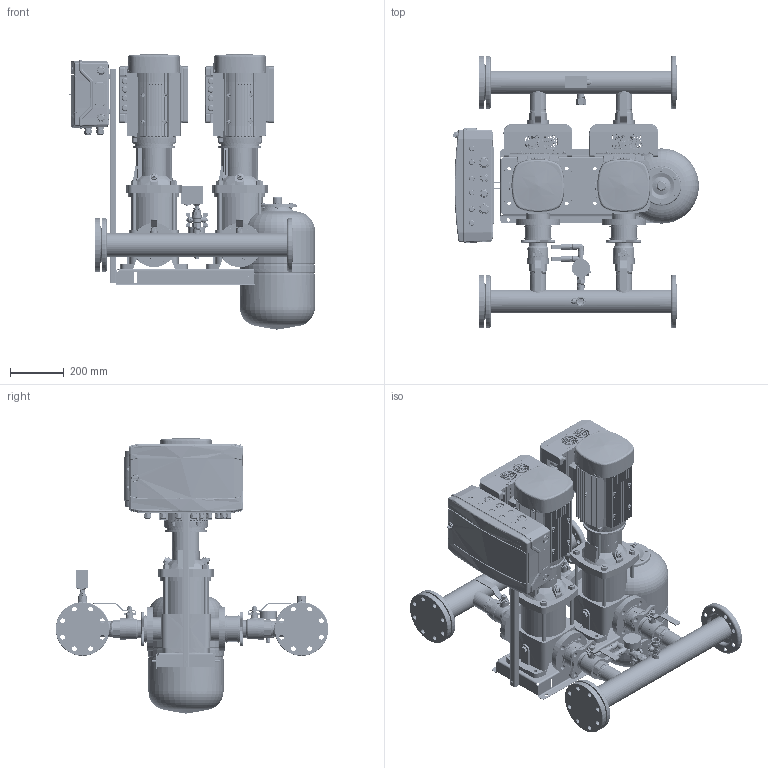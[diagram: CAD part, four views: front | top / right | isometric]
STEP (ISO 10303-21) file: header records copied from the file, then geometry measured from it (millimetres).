
FILE_DESCRIPTION(('CATIA V5 STEP Exchange','CAx-IF Rec.Pracs.--- Model Styling and Organization---1.4--- 2014-01-23','CAx-IF Rec.Pracs.---3D Tessellated Data Validation Properties---0.5---2014-09-14'),'2;1');
FILE_NAME('C:\Users\78432\YandexDisk\Drawings and 3D\3D Hydro Booster\Hydro-ME 3D\Hydro Models\Hydro ME 2 CRV15_20-xx (DIN BV)\Hydro ME 2 CRVE15-3 (DIN BV).stp','2023-09-20T12:17:24+00:00',('none'),('none'),'CATIA Version 5-6 Release 2019 SP6','CATIA V5 STEP AP242 v1','none');
FILE_SCHEMA(('AP242_MANAGED_MODEL_BASED_3D_ENGINEERING_MIM_LF {1 0 10303 442 1 1 4}'));
Products named in the file (44): Hydro ME 2 CRVE15-3 (DIN BV); 92051008; CRV15-3 set (DIN bv); CRV 15-3_A_DIN_3kW; Base; Sleeve; Pumphead; Staybolt.1; Staybolt.2; Staybolt.3; Staybolt.4; Plug; AirVent; Motor; 00id2584; 92802785; 99273085; SAJ PDH30 4-7,5kW; 97941445; 405801; 91040270; 91070073; 99110037; 97941482; 00GW4890; Holder and CP 18mod; 92878909; Control ME (18mod); 2 sensors + manometer cpl.; manometr 16 bar; RPD-I-G1_2; 9021-01; 2070 1/2-1/2; _2020 1/2-1/2; 98594078; Tank 24L cpl.; DN20_FF_BF_47.300.20; WAV-24(D140 1''); 9021-03; Relay cpl.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
Assembly tree (54 placements, depth 4):
  Hydro ME 2 CRVE15-3 (DIN BV)
    92051008
    CRV15-3 set (DIN bv)  x2
      CRV 15-3_A_DIN_3kW
        Base
        Sleeve
        Pumphead
        Staybolt.1
        Staybolt.2
        Staybolt.3
        Staybolt.4
        Plug
        AirVent
        Motor
      00id2584
      92802785
      99273085
      SAJ PDH30 4-7,5kW
    97941445  x2
      405801
      91040270
      91070073
      99110037
      97941482
    00GW4890  x2
    Holder and CP 18mod
      92878909
      Control ME (18mod)
    2 sensors + manometer cpl.
      manometr 16 bar
      RPD-I-G1_2  x2
      9021-01
      2070 1/2-1/2
      _2020 1/2-1/2
      98594078
    Tank 24L cpl.
      DN20_FF_BF_47.300.20
      9021-03
    Relay cpl.
      Relay RD-2R
      DN20_FF_BF_47.300.20
      2530 3/4-1/2
      _2530 1/2-1/4
    91078139
  WAV-24(D140 1'')
Bounding box: 916.82 x 1016.5 x 1032.43 mm (x, y, z)
Volume: 76328715.2 mm3; surface area: 8301576.4 mm2
Topology: 232 solids, 464 shells, 24793 faces, 79998 edges, 56790 vertices
Faces by surface type: plane 10394, cylinder 6447, bspline 5284, cone 1947, torus 508, sphere 213
Entity records: 691105 total; most frequent: CARTESIAN_POINT 355130, ORIENTED_EDGE 87347, EDGE_CURVE 44214, DIRECTION 38812, VERTEX_POINT 30377, B_SPLINE_CURVE_WITH_KNOTS 18463, VECTOR 18094, LINE 18094
